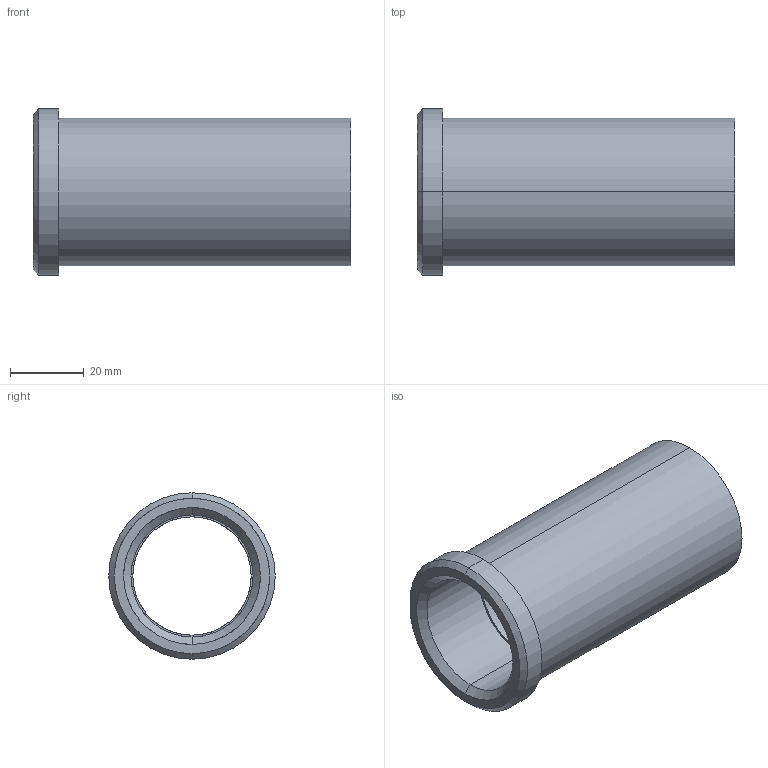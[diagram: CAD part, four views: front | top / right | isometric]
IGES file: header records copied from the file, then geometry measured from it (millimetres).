
Start section: START RECORD GO HERE.
Global section: file name: 353-32X86.igs; native system: DASSAULT SYSTEMES CATIA V5 R20 - www.3ds.com; preprocessor: CATIA Version 5 Release 20 ; author: Utente; organization: NB04-ASUS; date: 20210512.205347; units: millimetre
Bounding box: 86 x 45 x 45 mm (x, y, z)
Surface area: 20876.3 mm2 (no closed solid volume)
Topology: 0 solids, 0 shells, 18 faces, 116 edges, 116 vertices
Faces by surface type: revolution 14, plane 4
